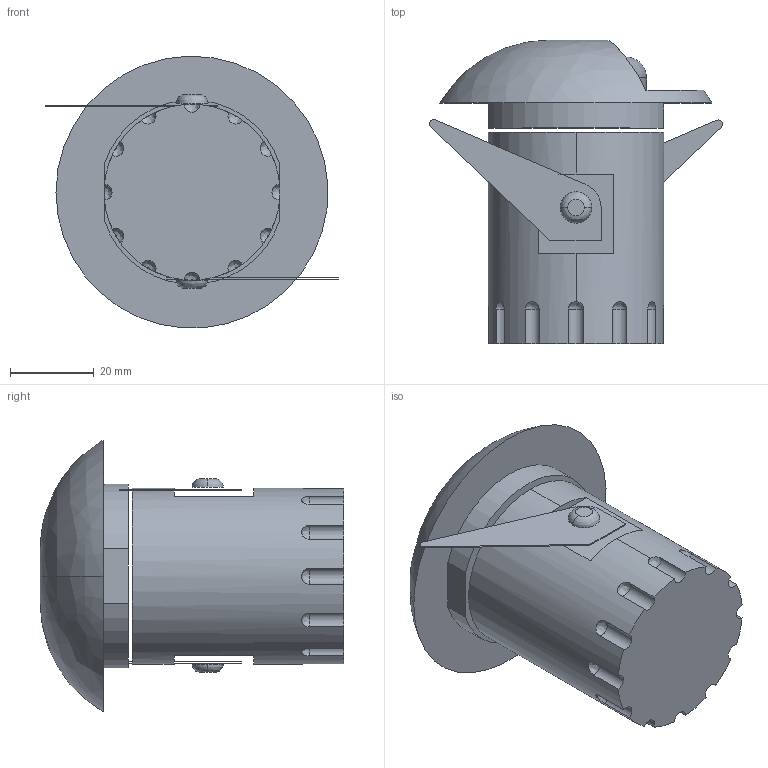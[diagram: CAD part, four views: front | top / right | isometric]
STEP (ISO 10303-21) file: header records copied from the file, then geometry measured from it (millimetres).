
FILE_DESCRIPTION((''),'2;1');
FILE_NAME('CALPESTAB-VISIERA-TON_SW0001','2025-07-30T16:24:40',('Piccioli'),(''),'CREO PARAMETRIC BY PTC INC, 2025010','CREO PARAMETRIC BY PTC INC, 2025010','');
FILE_SCHEMA(('CONFIG_CONTROL_DESIGN'));
Length unit declared in the file: millimetre
Products named in the file (1): CALPESTAB-VISIERA-TON_SW0001
Bounding box: 70 x 72.5 x 64.9 mm (x, y, z)
Surface area: 21497.4 mm2 (no closed solid volume)
Topology: 0 solids, 10 shells, 55 faces, 207 edges, 146 vertices
Faces by surface type: cylinder 19, bspline 18, plane 16, torus 2
Entity records: 3172 total; most frequent: CARTESIAN_POINT 1436, DIRECTION 370, ORIENTED_EDGE 335, EDGE_CURVE 207, AXIS2_PLACEMENT_3D 153, VERTEX_POINT 146, CIRCLE 116, VECTOR 64
